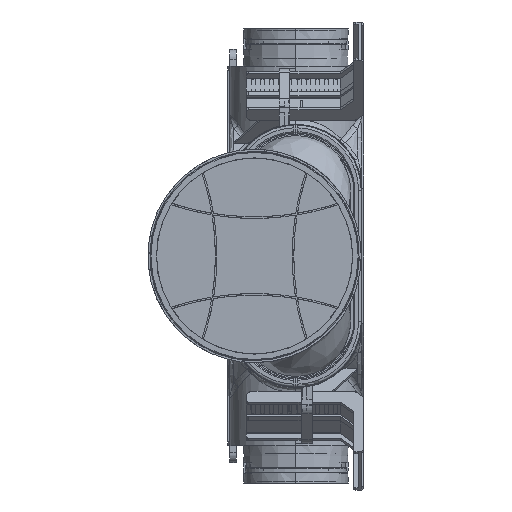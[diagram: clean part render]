
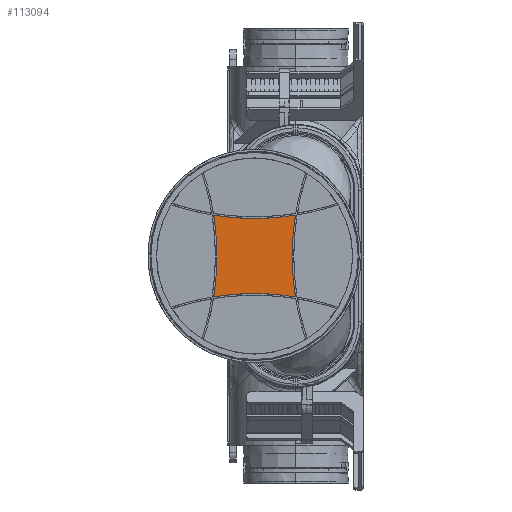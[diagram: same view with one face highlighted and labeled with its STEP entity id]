
A CAD part, left-side view. The second image highlights one B-rep face of the part: STEP entity #113094.
In plain terms, the highlighted planar face has unit normal (-1, 0, 0) as drawn and (0, 1, 0) by its records, which use the part's own axes.
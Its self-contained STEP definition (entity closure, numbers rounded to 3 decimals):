
#110215=CARTESIAN_POINT('',(31.188,148.6,-0.312));
#110225=CARTESIAN_POINT('',(230.,148.6,-31.5));
#110226=DIRECTION('',(0.,1.,0.));
#110227=DIRECTION('',(-1.,0.,0.));
#110228=AXIS2_PLACEMENT_3D('',#110225,#110226,#110227);
#110230=CARTESIAN_POINT('',(0.,148.6,198.5));
#110231=DIRECTION('',(0.,1.,0.));
#110232=DIRECTION('',(0.155,0.,-0.988));
#110233=AXIS2_PLACEMENT_3D('',#110230,#110231,#110232);
#110235=CARTESIAN_POINT('',(0.,148.6,198.5));
#110236=DIRECTION('',(0.,1.,0.));
#110237=DIRECTION('',(0.,0.,-1.));
#110238=AXIS2_PLACEMENT_3D('',#110235,#110236,#110237);
#110240=CARTESIAN_POINT('',(-230.,148.6,-31.5));
#110241=DIRECTION('',(0.,1.,0.));
#110242=DIRECTION('',(0.988,0.,0.155));
#110243=AXIS2_PLACEMENT_3D('',#110240,#110241,#110242);
#110245=CARTESIAN_POINT('',(-230.,148.6,-31.5));
#110246=DIRECTION('',(0.,1.,0.));
#110247=DIRECTION('',(1.,0.,0.));
#110248=AXIS2_PLACEMENT_3D('',#110245,#110246,#110247);
#110250=CARTESIAN_POINT('',(0.,148.6,-261.5));
#110251=DIRECTION('',(0.,1.,0.));
#110252=DIRECTION('',(-0.155,0.,0.988));
#110253=AXIS2_PLACEMENT_3D('',#110250,#110251,#110252);
#110255=CARTESIAN_POINT('',(0.,148.6,-261.5));
#110256=DIRECTION('',(0.,1.,0.));
#110257=DIRECTION('',(0.,0.,1.));
#110258=AXIS2_PLACEMENT_3D('',#110255,#110256,#110257);
#110260=CARTESIAN_POINT('',(230.,148.6,-31.5));
#110261=DIRECTION('',(0.,1.,0.));
#110262=DIRECTION('',(-0.988,0.,-0.155));
#110263=AXIS2_PLACEMENT_3D('',#110260,#110261,#110262);
#110265=CARTESIAN_POINT('',(-31.188,148.6,-0.312));
#110564=VERTEX_POINT('',#110215);
#110565=VERTEX_POINT('',#110265);
#110566=CARTESIAN_POINT('',(0.,148.6,-2.744));
#110567=VERTEX_POINT('',#110566);
#110568=CARTESIAN_POINT('',(31.188,148.6,-62.688));
#110569=CARTESIAN_POINT('',(28.756,148.6,-31.5));
#110570=VERTEX_POINT('',#110568);
#110571=VERTEX_POINT('',#110569);
#110572=CARTESIAN_POINT('',(-28.756,148.6,-31.5));
#110573=VERTEX_POINT('',#110572);
#110574=CARTESIAN_POINT('',(-31.188,148.6,-62.688));
#110575=VERTEX_POINT('',#110574);
#110576=CARTESIAN_POINT('',(0.,148.6,-60.256));
#110577=VERTEX_POINT('',#110576);
#113075=CARTESIAN_POINT('',(0.,148.6,-31.5));
#113076=DIRECTION('',(0.,-1.,0.));
#113077=DIRECTION('',(0.,0.,1.));
#113078=AXIS2_PLACEMENT_3D('',#113075,#113076,#113077);
#113079=PLANE('',#113078);
#113080=ORIENTED_EDGE('',*,*,#113070,.T.);
#113081=ORIENTED_EDGE('',*,*,#113053,.T.);
#113082=ORIENTED_EDGE('',*,*,#113051,.T.);
#113084=ORIENTED_EDGE('',*,*,#113083,.T.);
#113086=ORIENTED_EDGE('',*,*,#113085,.T.);
#113088=ORIENTED_EDGE('',*,*,#113087,.T.);
#113090=ORIENTED_EDGE('',*,*,#113089,.T.);
#113091=ORIENTED_EDGE('',*,*,#113063,.T.);
#113092=EDGE_LOOP('',(#113080,#113081,#113082,#113084,#113086,#113088,#113090,
#113091));
#113093=FACE_OUTER_BOUND('',#113092,.F.);
#113094=ADVANCED_FACE('',(#113093),#113079,.F.);
#110229=CIRCLE('',#110228,201.244);
#110234=CIRCLE('',#110233,201.244);
#110239=CIRCLE('',#110238,201.244);
#110244=CIRCLE('',#110243,201.244);
#110249=CIRCLE('',#110248,201.244);
#110254=CIRCLE('',#110253,201.244);
#110259=CIRCLE('',#110258,201.244);
#110264=CIRCLE('',#110263,201.244);
#113051=EDGE_CURVE('',#110567,#110565,#110239,.T.);
#113053=EDGE_CURVE('',#110564,#110567,#110234,.T.);
#113063=EDGE_CURVE('',#110570,#110571,#110264,.T.);
#113070=EDGE_CURVE('',#110571,#110564,#110229,.T.);
#113083=EDGE_CURVE('',#110565,#110573,#110244,.T.);
#113085=EDGE_CURVE('',#110573,#110575,#110249,.T.);
#113087=EDGE_CURVE('',#110575,#110577,#110254,.T.);
#113089=EDGE_CURVE('',#110577,#110570,#110259,.T.);
